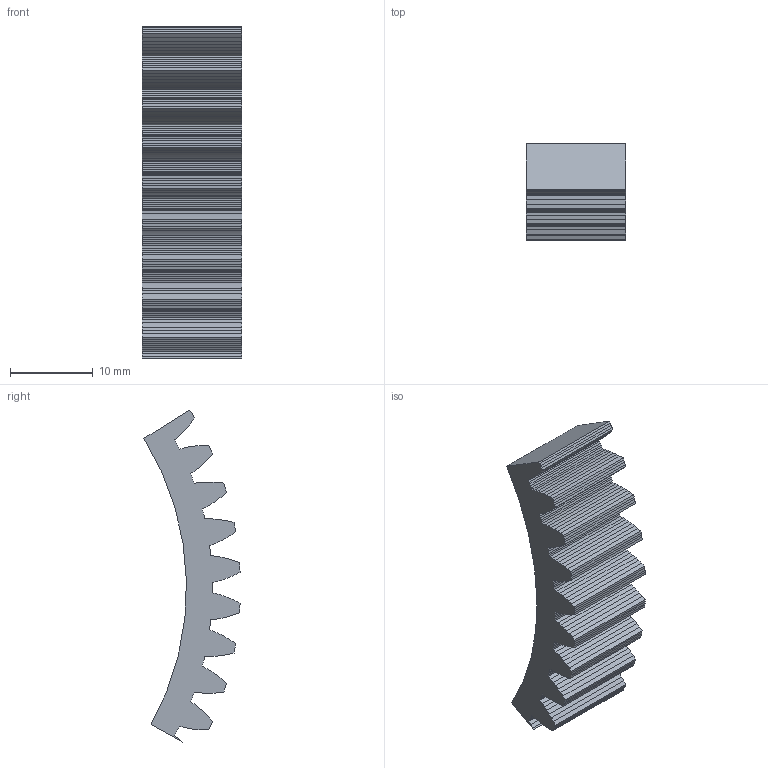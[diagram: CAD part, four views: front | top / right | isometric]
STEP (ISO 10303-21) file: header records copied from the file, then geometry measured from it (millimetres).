
FILE_DESCRIPTION(('Open CASCADE Model'),'2;1');
FILE_NAME('Open CASCADE Shape Model','2026-10-17T22:10:43',('Author'),( 'Open CASCADE'),'Open CASCADE STEP processor 7.9','Open CASCADE 7.9' ,'Unknown');
FILE_SCHEMA(('AUTOMOTIVE_DESIGN { 1 0 10303 214 1 1 1 1 }'));
Length unit declared in the file: millimetre
Products named in the file (1): Open CASCADE STEP translator 7.9 29
Bounding box: 12 x 11.6 x 40.01 mm (x, y, z)
Volume: 2263.8 mm3; surface area: 1943.7 mm2
Topology: 1 solids, 1 shells, 208 faces, 618 edges, 412 vertices
Faces by surface type: plane 207, cylinder 1
Entity records: 14858 total; most frequent: CARTESIAN_POINT 2503, DIRECTION 2256, LINE 1834, VECTOR 1834, ORIENTED_EDGE 1236, PCURVE 1236, DEFINITIONAL_REPRESENTATION 1236, EDGE_CURVE 618
